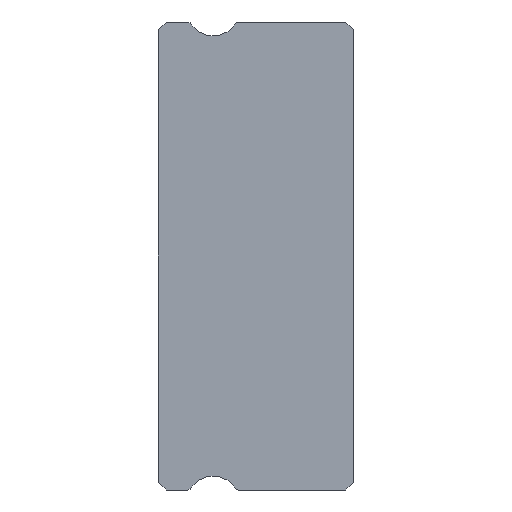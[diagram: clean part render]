
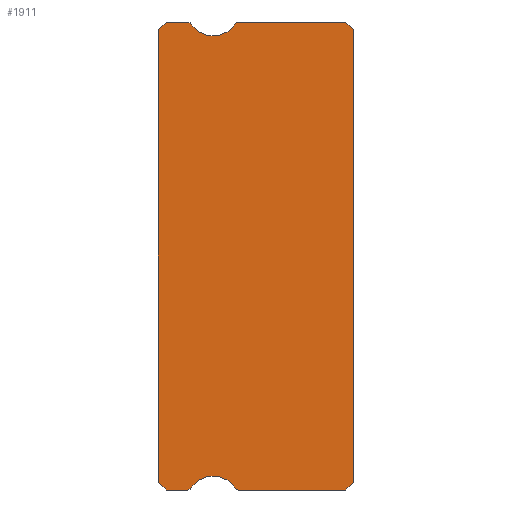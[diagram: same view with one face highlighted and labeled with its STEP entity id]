
A CAD part, left-side view. The second image highlights one B-rep face of the part: STEP entity #1911.
In plain terms, the highlighted planar face has unit normal (-1, 0, 0).
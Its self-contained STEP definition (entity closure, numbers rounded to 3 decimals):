
#20=CIRCLE('',#2048,0.15);
#22=CIRCLE('',#2051,1.);
#24=CIRCLE('',#2054,0.15);
#66=CIRCLE('',#2102,0.15);
#68=CIRCLE('',#2105,1.);
#70=CIRCLE('',#2108,0.15);
#438=ORIENTED_EDGE('',*,*,#694,.F.);
#439=ORIENTED_EDGE('',*,*,#820,.F.);
#440=ORIENTED_EDGE('',*,*,#777,.F.);
#441=ORIENTED_EDGE('',*,*,#774,.F.);
#442=ORIENTED_EDGE('',*,*,#771,.F.);
#443=ORIENTED_EDGE('',*,*,#768,.T.);
#444=ORIENTED_EDGE('',*,*,#765,.F.);
#445=ORIENTED_EDGE('',*,*,#762,.F.);
#446=ORIENTED_EDGE('',*,*,#759,.F.);
#447=ORIENTED_EDGE('',*,*,#756,.F.);
#448=ORIENTED_EDGE('',*,*,#713,.F.);
#449=ORIENTED_EDGE('',*,*,#710,.F.);
#450=ORIENTED_EDGE('',*,*,#707,.F.);
#451=ORIENTED_EDGE('',*,*,#704,.T.);
#452=ORIENTED_EDGE('',*,*,#701,.F.);
#453=ORIENTED_EDGE('',*,*,#698,.F.);
#694=EDGE_CURVE('',#902,#903,#1094,.T.);
#698=EDGE_CURVE('',#903,#906,#1098,.T.);
#701=EDGE_CURVE('',#906,#908,#20,.T.);
#704=EDGE_CURVE('',#910,#908,#22,.T.);
#707=EDGE_CURVE('',#910,#912,#24,.T.);
#710=EDGE_CURVE('',#912,#914,#1104,.T.);
#713=EDGE_CURVE('',#914,#916,#1107,.T.);
#756=EDGE_CURVE('',#916,#958,#1110,.T.);
#759=EDGE_CURVE('',#958,#960,#1113,.T.);
#762=EDGE_CURVE('',#960,#962,#1116,.T.);
#765=EDGE_CURVE('',#962,#964,#66,.T.);
#768=EDGE_CURVE('',#966,#964,#68,.T.);
#771=EDGE_CURVE('',#966,#968,#70,.T.);
#774=EDGE_CURVE('',#968,#970,#1122,.T.);
#777=EDGE_CURVE('',#970,#972,#1125,.T.);
#820=EDGE_CURVE('',#972,#902,#1128,.T.);
#902=VERTEX_POINT('',#3016);
#903=VERTEX_POINT('',#3017);
#906=VERTEX_POINT('',#3025);
#908=VERTEX_POINT('',#3031);
#910=VERTEX_POINT('',#3037);
#912=VERTEX_POINT('',#3043);
#914=VERTEX_POINT('',#3049);
#916=VERTEX_POINT('',#3055);
#958=VERTEX_POINT('',#3141);
#960=VERTEX_POINT('',#3147);
#962=VERTEX_POINT('',#3153);
#964=VERTEX_POINT('',#3159);
#966=VERTEX_POINT('',#3165);
#968=VERTEX_POINT('',#3171);
#970=VERTEX_POINT('',#3177);
#972=VERTEX_POINT('',#3183);
#1094=LINE('',#3015,#1130);
#1098=LINE('',#3024,#1134);
#1104=LINE('',#3048,#1140);
#1107=LINE('',#3054,#1143);
#1110=LINE('',#3140,#1146);
#1113=LINE('',#3146,#1149);
#1116=LINE('',#3152,#1152);
#1122=LINE('',#3176,#1158);
#1125=LINE('',#3182,#1161);
#1128=LINE('',#3268,#1164);
#1130=VECTOR('',#2359,1000.);
#1134=VECTOR('',#2365,1000.);
#1140=VECTOR('',#2391,1000.);
#1143=VECTOR('',#2396,1000.);
#1146=VECTOR('',#2481,1000.);
#1149=VECTOR('',#2486,1000.);
#1152=VECTOR('',#2491,1000.);
#1158=VECTOR('',#2517,1000.);
#1161=VECTOR('',#2522,1000.);
#1164=VECTOR('',#2607,1000.);
#1263=EDGE_LOOP('',(#438,#439,#440,#441,#442,#443,#444,#445,#446,#447,#448,
#449,#450,#451,#452,#453));
#1601=FACE_BOUND('',#1263,.T.);
#1853=PLANE('',#2154);
#1911=ADVANCED_FACE('',(#1601),#1853,.F.);
#2048=AXIS2_PLACEMENT_3D('',#3030,#2370,#2371);
#2051=AXIS2_PLACEMENT_3D('',#3036,#2377,#2378);
#2054=AXIS2_PLACEMENT_3D('',#3042,#2384,#2385);
#2102=AXIS2_PLACEMENT_3D('',#3158,#2496,#2497);
#2105=AXIS2_PLACEMENT_3D('',#3164,#2503,#2504);
#2108=AXIS2_PLACEMENT_3D('',#3170,#2510,#2511);
#2154=AXIS2_PLACEMENT_3D('',#3271,#2611,#2612);
#2359=DIRECTION('',(0.,-0.707,0.707));
#2365=DIRECTION('',(0.,-1.,0.));
#2370=DIRECTION('',(1.,0.,0.));
#2371=DIRECTION('',(0.,0.,-1.));
#2377=DIRECTION('',(1.,0.,0.));
#2378=DIRECTION('',(0.,0.,-1.));
#2384=DIRECTION('',(1.,0.,0.));
#2385=DIRECTION('',(0.,0.,-1.));
#2391=DIRECTION('',(0.,-1.,0.));
#2396=DIRECTION('',(0.,-0.707,-0.707));
#2481=DIRECTION('',(0.,0.,-1.));
#2486=DIRECTION('',(0.,0.707,-0.707));
#2491=DIRECTION('',(0.,1.,0.));
#2496=DIRECTION('',(1.,0.,0.));
#2497=DIRECTION('',(0.,0.,-1.));
#2503=DIRECTION('',(1.,0.,0.));
#2504=DIRECTION('',(0.,0.,-1.));
#2510=DIRECTION('',(1.,0.,0.));
#2511=DIRECTION('',(0.,0.,-1.));
#2517=DIRECTION('',(0.,1.,0.));
#2522=DIRECTION('',(0.,0.707,0.707));
#2607=DIRECTION('',(0.,0.,1.));
#2611=DIRECTION('',(1.,0.,0.));
#2612=DIRECTION('',(0.,0.,-1.));
#3015=CARTESIAN_POINT('',(-15.,7.5,8.7));
#3016=CARTESIAN_POINT('',(-15.,7.5,8.7));
#3017=CARTESIAN_POINT('',(-15.,7.2,9.));
#3024=CARTESIAN_POINT('',(-15.,7.2,9.));
#3025=CARTESIAN_POINT('',(-15.,6.381,9.));
#3030=CARTESIAN_POINT('',(-15.,6.381,8.85));
#3031=CARTESIAN_POINT('',(-15.,6.253,8.928));
#3036=CARTESIAN_POINT('',(-15.,5.4,9.45));
#3037=CARTESIAN_POINT('',(-15.,4.547,8.928));
#3042=CARTESIAN_POINT('',(-15.,4.419,8.85));
#3043=CARTESIAN_POINT('',(-15.,4.419,9.));
#3048=CARTESIAN_POINT('',(-15.,4.419,9.));
#3049=CARTESIAN_POINT('',(-15.,0.3,9.));
#3054=CARTESIAN_POINT('',(-15.,0.3,9.));
#3055=CARTESIAN_POINT('',(-15.,0.,8.7));
#3140=CARTESIAN_POINT('',(-15.,0.,8.7));
#3141=CARTESIAN_POINT('',(-15.,0.,-8.7));
#3146=CARTESIAN_POINT('',(-15.,0.,-8.7));
#3147=CARTESIAN_POINT('',(-15.,0.3,-9.));
#3152=CARTESIAN_POINT('',(-15.,0.3,-9.));
#3153=CARTESIAN_POINT('',(-15.,4.419,-9.));
#3158=CARTESIAN_POINT('',(-15.,4.419,-8.85));
#3159=CARTESIAN_POINT('',(-15.,4.547,-8.928));
#3164=CARTESIAN_POINT('',(-15.,5.4,-9.45));
#3165=CARTESIAN_POINT('',(-15.,6.253,-8.928));
#3170=CARTESIAN_POINT('',(-15.,6.381,-8.85));
#3171=CARTESIAN_POINT('',(-15.,6.381,-9.));
#3176=CARTESIAN_POINT('',(-15.,6.381,-9.));
#3177=CARTESIAN_POINT('',(-15.,7.2,-9.));
#3182=CARTESIAN_POINT('',(-15.,7.2,-9.));
#3183=CARTESIAN_POINT('',(-15.,7.5,-8.7));
#3268=CARTESIAN_POINT('',(-15.,7.5,-8.7));
#3271=CARTESIAN_POINT('',(-15.,6.381,8.85));
